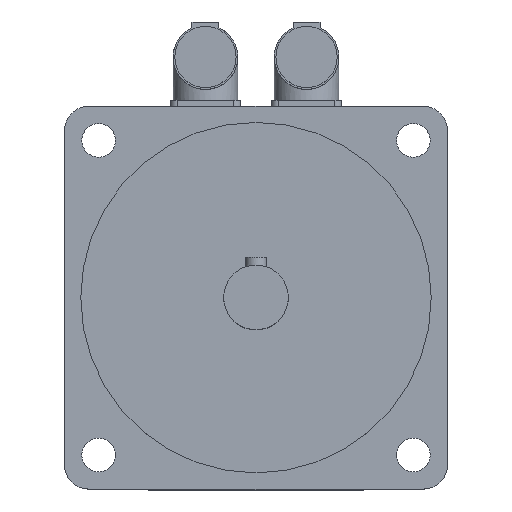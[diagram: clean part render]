
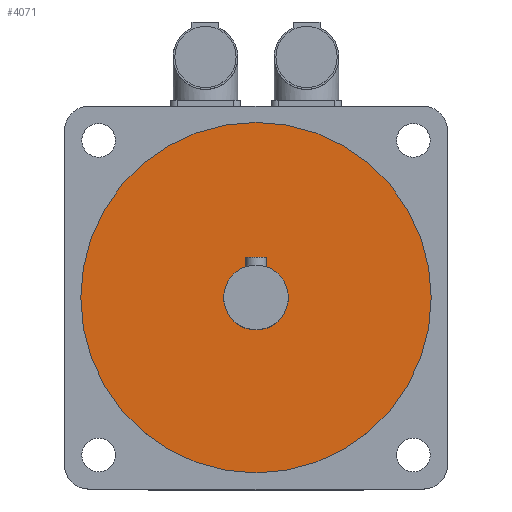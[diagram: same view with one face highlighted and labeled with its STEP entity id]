
A CAD part, top view. The second image highlights one B-rep face of the part: STEP entity #4071.
In plain terms, the highlighted planar face has unit normal (0, 0, 1).
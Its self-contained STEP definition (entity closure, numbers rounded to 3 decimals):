
#28=FACE_BOUND('',#533,.T.);
#79=PLANE('',#4432);
#278=FACE_OUTER_BOUND('',#532,.T.);
#532=EDGE_LOOP('',(#2985));
#533=EDGE_LOOP('',(#2986));
#1517=CIRCLE('',#4427,12.);
#1518=CIRCLE('',#4430,65.);
#1774=VERTEX_POINT('',#6532);
#1775=VERTEX_POINT('',#6536);
#2232=EDGE_CURVE('',#1774,#1774,#1517,.T.);
#2233=EDGE_CURVE('',#1775,#1775,#1518,.T.);
#2985=ORIENTED_EDGE('',*,*,#2233,.T.);
#2986=ORIENTED_EDGE('',*,*,#2232,.T.);
#4071=ADVANCED_FACE('',(#278,#28),#79,.F.);
#4427=AXIS2_PLACEMENT_3D('',#6533,#5205,#5206);
#4430=AXIS2_PLACEMENT_3D('',#6537,#5211,#5212);
#4432=AXIS2_PLACEMENT_3D('',#6540,#5215,#5216);
#5205=DIRECTION('center_axis',(0.,0.,
-1.));
#5206=DIRECTION('ref_axis',(-1.,0.,0.));
#5211=DIRECTION('center_axis',(0.,0.,
1.));
#5212=DIRECTION('ref_axis',(-1.,0.,0.));
#5215=DIRECTION('center_axis',(0.,0.,
-1.));
#5216=DIRECTION('ref_axis',(-1.,0.,0.));
#6532=CARTESIAN_POINT('',(12.,0.,176.5));
#6533=CARTESIAN_POINT('Origin',(0.,0.,
176.5));
#6536=CARTESIAN_POINT('',(65.,0.,176.5));
#6537=CARTESIAN_POINT('Origin',(0.,0.,
176.5));
#6540=CARTESIAN_POINT('Origin',(0.,0.,
176.5));
